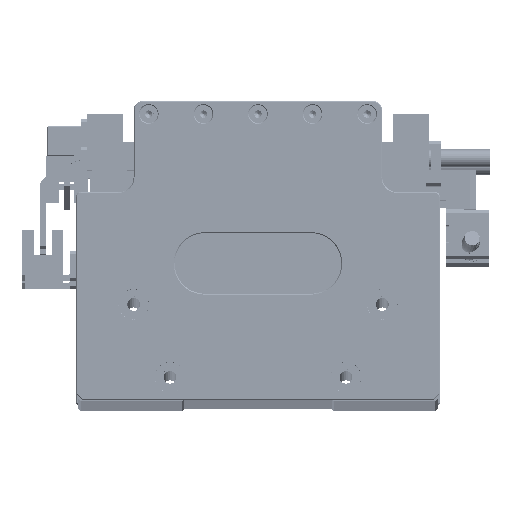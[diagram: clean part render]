
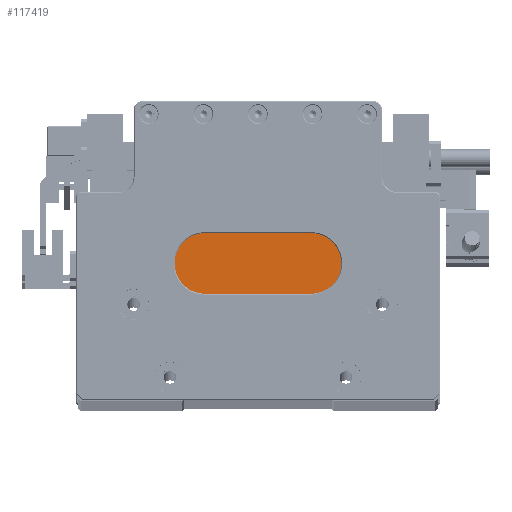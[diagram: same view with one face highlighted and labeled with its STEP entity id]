
A CAD part, top view. The second image highlights one B-rep face of the part: STEP entity #117419.
In plain terms, the highlighted planar face has unit normal (0, 0, 1).
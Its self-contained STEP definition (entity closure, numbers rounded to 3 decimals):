
#2564 = ORIENTED_EDGE ( 'NONE', *, *, #18960, .T. ) ;
#3337 = ORIENTED_EDGE ( 'NONE', *, *, #9885, .T. ) ;
#5542 = ORIENTED_EDGE ( 'NONE', *, *, #117318, .T. ) ;
#5632 = EDGE_CURVE ( 'NONE', #128043, #119060, #103479, .T. ) ;
#7584 = CARTESIAN_POINT ( 'NONE',  ( 2.868, -17.023, 340. ) ) ;
#8238 = AXIS2_PLACEMENT_3D ( 'NONE', #7584, #78961, #17837 ) ;
#9885 = EDGE_CURVE ( 'NONE', #13605, #113354, #104288, .T. ) ;
#10607 = DIRECTION ( 'NONE',  ( 0., 0., -1. ) ) ;
#11974 = CARTESIAN_POINT ( 'NONE',  ( -23.132, -9.223, 340. ) ) ;
#12795 = CARTESIAN_POINT ( 'NONE',  ( 25.168, -17.023, 340. ) ) ;
#13600 = LINE ( 'NONE', #13674, #37509 ) ;
#13605 = VERTEX_POINT ( 'NONE', #63200 ) ;
#13674 = CARTESIAN_POINT ( 'NONE',  ( -4.632, -17.023, 340. ) ) ;
#15751 = ORIENTED_EDGE ( 'NONE', *, *, #82423, .T. ) ;
#17593 = PLANE ( 'NONE',  #123923 ) ;
#17837 = DIRECTION ( 'NONE',  ( 1., 0., 0. ) ) ;
#18960 = EDGE_CURVE ( 'NONE', #113354, #51152, #82984, .T. ) ;
#22690 = VECTOR ( 'NONE', #107040, 1000. ) ;
#22942 = VECTOR ( 'NONE', #94098, 1000. ) ;
#24793 = ORIENTED_EDGE ( 'NONE', *, *, #117876, .T. ) ;
#28698 = VECTOR ( 'NONE', #87731, 1000. ) ;
#29757 = LINE ( 'NONE', #31069, #80852 ) ;
#30463 = CARTESIAN_POINT ( 'NONE',  ( 13.868, -17.023, 340. ) ) ;
#31069 = CARTESIAN_POINT ( 'NONE',  ( -4.632, -9.223, 340. ) ) ;
#33381 = EDGE_CURVE ( 'NONE', #61859, #115956, #78207, .T. ) ;
#35740 = CARTESIAN_POINT ( 'NONE',  ( -4.632, -17.023, 340. ) ) ;
#35918 = VERTEX_POINT ( 'NONE', #50739 ) ;
#37222 = ORIENTED_EDGE ( 'NONE', *, *, #100721, .T. ) ;
#37509 = VECTOR ( 'NONE', #107228, 1000. ) ;
#37531 = EDGE_CURVE ( 'NONE', #35918, #61859, #29757, .T. ) ;
#37982 = CIRCLE ( 'NONE', #76250, 1.25 ) ;
#38259 = EDGE_CURVE ( 'NONE', #64261, #35918, #100003, .T. ) ;
#38970 = CARTESIAN_POINT ( 'NONE',  ( -12.132, -17.023, 340. ) ) ;
#40813 = CARTESIAN_POINT ( 'NONE',  ( -23.132, -17.023, 340. ) ) ;
#41355 = DIRECTION ( 'NONE',  ( -1., 0., 0. ) ) ;
#42575 = VECTOR ( 'NONE', #63105, 1000. ) ;
#42957 = DIRECTION ( 'NONE',  ( 0., 0., -1. ) ) ;
#44033 = VERTEX_POINT ( 'NONE', #12795 ) ;
#46636 = LINE ( 'NONE', #35740, #22690 ) ;
#47834 = VERTEX_POINT ( 'NONE', #63715 ) ;
#48334 = ORIENTED_EDGE ( 'NONE', *, *, #96223, .T. ) ;
#48396 = DIRECTION ( 'NONE',  ( 0., 0., 1. ) ) ;
#49306 = DIRECTION ( 'NONE',  ( 1., 0., 0. ) ) ;
#49529 = CARTESIAN_POINT ( 'NONE',  ( -34.432, -49.023, 340. ) ) ;
#49601 = ORIENTED_EDGE ( 'NONE', *, *, #38259, .T. ) ;
#50739 = CARTESIAN_POINT ( 'NONE',  ( 13.868, -9.223, 340. ) ) ;
#51152 = VERTEX_POINT ( 'NONE', #90916 ) ;
#55480 = ORIENTED_EDGE ( 'NONE', *, *, #125298, .T. ) ;
#61859 = VERTEX_POINT ( 'NONE', #11974 ) ;
#63105 = DIRECTION ( 'NONE',  ( 0., 1., 0. ) ) ;
#63200 = CARTESIAN_POINT ( 'NONE',  ( -34.432, -17.023, 340. ) ) ;
#63715 = CARTESIAN_POINT ( 'NONE',  ( 4.118, -17.023, 340. ) ) ;
#64261 = VERTEX_POINT ( 'NONE', #30463 ) ;
#67514 = FACE_OUTER_BOUND ( 'NONE', #115475, .T. ) ;
#71766 = CARTESIAN_POINT ( 'NONE',  ( -12.132, -17.023, 340. ) ) ;
#72486 = CARTESIAN_POINT ( 'NONE',  ( -23.132, -9.023, 340. ) ) ;
#73855 = AXIS2_PLACEMENT_3D ( 'NONE', #71766, #10607, #81963 ) ;
#76250 = AXIS2_PLACEMENT_3D ( 'NONE', #38970, #110321, #49306 ) ;
#78207 = LINE ( 'NONE', #72486, #98855 ) ;
#78961 = DIRECTION ( 'NONE',  ( 0., 0., -1. ) ) ;
#80852 = VECTOR ( 'NONE', #41355, 1000. ) ;
#81963 = DIRECTION ( 'NONE',  ( 1., 0., 0. ) ) ;
#82423 = EDGE_CURVE ( 'NONE', #47834, #127758, #88209, .T. ) ;
#82984 = LINE ( 'NONE', #128289, #28698 ) ;
#83881 = CARTESIAN_POINT ( 'NONE',  ( -34.432, -9.023, 340. ) ) ;
#84532 = EDGE_LOOP ( 'NONE', ( #48334, #108019 ) ) ;
#84634 = CIRCLE ( 'NONE', #8238, 1.25 ) ;
#87731 = DIRECTION ( 'NONE',  ( 1., 0., 0. ) ) ;
#88209 = CIRCLE ( 'NONE', #97251, 1.25 ) ;
#90067 = ORIENTED_EDGE ( 'NONE', *, *, #37531, .T. ) ;
#90916 = CARTESIAN_POINT ( 'NONE',  ( 25.168, -49.023, 340. ) ) ;
#92707 = CARTESIAN_POINT ( 'NONE',  ( 1.618, -17.023, 340. ) ) ;
#93381 = CARTESIAN_POINT ( 'NONE',  ( 13.868, -9.023, 340. ) ) ;
#94098 = DIRECTION ( 'NONE',  ( 0., -1., 0. ) ) ;
#94567 = FACE_BOUND ( 'NONE', #84532, .T. ) ;
#95440 = ORIENTED_EDGE ( 'NONE', *, *, #33381, .T. ) ;
#96223 = EDGE_CURVE ( 'NONE', #119060, #128043, #37982, .T. ) ;
#97251 = AXIS2_PLACEMENT_3D ( 'NONE', #103988, #42957, #114256 ) ;
#98855 = VECTOR ( 'NONE', #113401, 1000. ) ;
#100003 = LINE ( 'NONE', #93381, #42575 ) ;
#100721 = EDGE_CURVE ( 'NONE', #127758, #47834, #84634, .T. ) ;
#100952 = LINE ( 'NONE', #108545, #128062 ) ;
#103479 = CIRCLE ( 'NONE', #73855, 1.25 ) ;
#103988 = CARTESIAN_POINT ( 'NONE',  ( 2.868, -17.023, 340. ) ) ;
#104288 = LINE ( 'NONE', #83881, #22942 ) ;
#107040 = DIRECTION ( 'NONE',  ( -1., 0., 0. ) ) ;
#107228 = DIRECTION ( 'NONE',  ( -1., 0., 0. ) ) ;
#108019 = ORIENTED_EDGE ( 'NONE', *, *, #5632, .T. ) ;
#108545 = CARTESIAN_POINT ( 'NONE',  ( 25.168, -9.023, 340. ) ) ;
#109420 = CARTESIAN_POINT ( 'NONE',  ( -4.632, -9.023, 340. ) ) ;
#110321 = DIRECTION ( 'NONE',  ( 0., 0., -1. ) ) ;
#113354 = VERTEX_POINT ( 'NONE', #49529 ) ;
#113401 = DIRECTION ( 'NONE',  ( 0., -1., 0. ) ) ;
#114038 = EDGE_LOOP ( 'NONE', ( #15751, #37222 ) ) ;
#114256 = DIRECTION ( 'NONE',  ( 1., 0., 0. ) ) ;
#115475 = EDGE_LOOP ( 'NONE', ( #90067, #95440, #55480, #3337, #2564, #5542, #24793, #49601 ) ) ;
#115956 = VERTEX_POINT ( 'NONE', #40813 ) ;
#117318 = EDGE_CURVE ( 'NONE', #51152, #44033, #100952, .T. ) ;
#117419 = ADVANCED_FACE ( 'NONE', ( #67514, #124836, #94567 ), #17593, .T. ) ;
#117876 = EDGE_CURVE ( 'NONE', #44033, #64261, #46636, .T. ) ;
#117907 = CARTESIAN_POINT ( 'NONE',  ( -10.882, -17.023, 340. ) ) ;
#118742 = DIRECTION ( 'NONE',  ( 0., 1., 0. ) ) ;
#119060 = VERTEX_POINT ( 'NONE', #117907 ) ;
#119650 = DIRECTION ( 'NONE',  ( 1., 0., 0. ) ) ;
#123923 = AXIS2_PLACEMENT_3D ( 'NONE', #109420, #48396, #119650 ) ;
#124836 = FACE_BOUND ( 'NONE', #114038, .T. ) ;
#125298 = EDGE_CURVE ( 'NONE', #115956, #13605, #13600, .T. ) ;
#127758 = VERTEX_POINT ( 'NONE', #92707 ) ;
#127830 = CARTESIAN_POINT ( 'NONE',  ( -13.382, -17.023, 340. ) ) ;
#128043 = VERTEX_POINT ( 'NONE', #127830 ) ;
#128062 = VECTOR ( 'NONE', #118742, 1000. ) ;
#128289 = CARTESIAN_POINT ( 'NONE',  ( -34.632, -49.023, 340. ) ) ;
